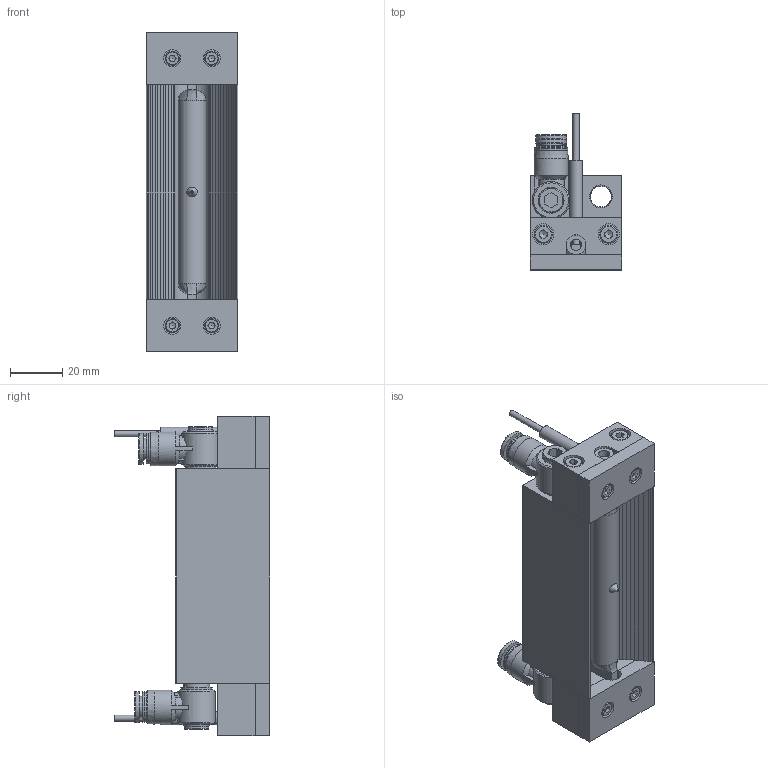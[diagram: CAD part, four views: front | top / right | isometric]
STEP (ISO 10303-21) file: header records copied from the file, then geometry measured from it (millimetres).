
FILE_DESCRIPTION(/* description */ (''),/* implementation_level */ '2;1');
FILE_NAME(/* name */ 'D:/ドキュメント/ACLT/その他/FTC_HP/LHW/3D/STEP/LHW35-L82_01.step',/* time_stamp */ '2018-09-19T16:51:17+09:00',/* author */ ('j.masuoka@mbe.nifty.com'),/* organization */ (''),/* preprocessor_version */ 'ST-DEVELOPER v17.2',/* originating_system */ 'Autodesk Translation Framework v7.6.0.251',/* authorisation */ '');
FILE_SCHEMA (('AUTOMOTIVE_DESIGN { 1 0 10303 214 3 1 1 }'));
Length unit declared in the file: millimetre
Products named in the file (26): LHW35-L82_01; POL6-01 v3; POL6-01 v3 (1); 04_ランプ v3; 04d_シール部 v3; 04d_シール部 v3 (1); 04c_コイル2 v1; 04h_R7S v2; 04h_R7S v2 (1); 04g_チップ2 v3; 04k_リード v1; 04k_リード v1 (1); 04l_スリーブ v1; 04l_スリーブ v1 (1); 02_ホルダ2 v4; 03_ホルダ2 v2; 02_ホルダ2 v4 (1); 03_ホルダ2 v2 (1); BOX-SCB4-25 v1; BOX-SCB4-25 v1 (1); BOX-SCB4-25 v1 (2); BOX-SCB4-25 v1 (3); SCB3-10 v1; SCB3-10 v1 (1); SCB3-10 v1 (2); SCB3-10 v1 (3)
Assembly tree (25 placements, depth 3):
  LHW35-L82_01
    POL6-01 v3
    POL6-01 v3 (1)
    04_ランプ v3
      04d_シール部 v3
      04d_シール部 v3 (1)
      04c_コイル2 v1
      04h_R7S v2
      04h_R7S v2 (1)
      04g_チップ2 v3
      04k_リード v1
      04k_リード v1 (1)
      04l_スリーブ v1
      04l_スリーブ v1 (1)
    02_ホルダ2 v4
    03_ホルダ2 v2
    02_ホルダ2 v4 (1)
    03_ホルダ2 v2 (1)
    BOX-SCB4-25 v1
    BOX-SCB4-25 v1 (1)
    BOX-SCB4-25 v1 (2)
    BOX-SCB4-25 v1 (3)
    SCB3-10 v1
    SCB3-10 v1 (1)
    SCB3-10 v1 (2)
    SCB3-10 v1 (3)
Bounding box: 35 x 59.5 x 122 mm (x, y, z)
Volume: 107122.2 mm3; surface area: 46786.1 mm2
Topology: 26 solids, 26 shells, 467 faces, 1178 edges, 797 vertices
Faces by surface type: plane 287, cylinder 98, cone 69, bspline 8, torus 4, sphere 1
Full cylindrical faces by diameter (mm): 2.4 x4, 2.5 x1, 2.529 x6, 3 x4, 3.332 x4, 3.4 x4, 4 x4, 4.3 x2, 4.5 x4, 5 x4, 5.035 x2, 5.5 x4, 6 x2, 6.5 x4, 7 x4, 7.4 x2, 8 x6, 8.1 x2, 9.4 x2, 10.5 x1, 11.5 x4, 11.8 x2, 12 x2, 13 x2, 14.3 x2
Entity records: 15707 total; most frequent: CARTESIAN_POINT 3032, DIRECTION 2599, ORIENTED_EDGE 2320, EDGE_CURVE 1160, AXIS2_PLACEMENT_3D 976, VERTEX_POINT 797, LINE 647, VECTOR 647
